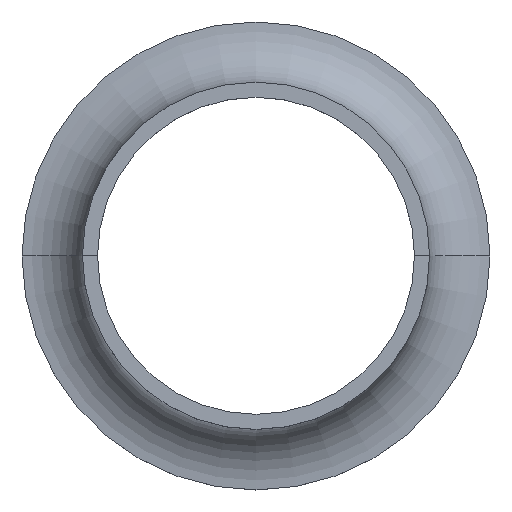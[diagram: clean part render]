
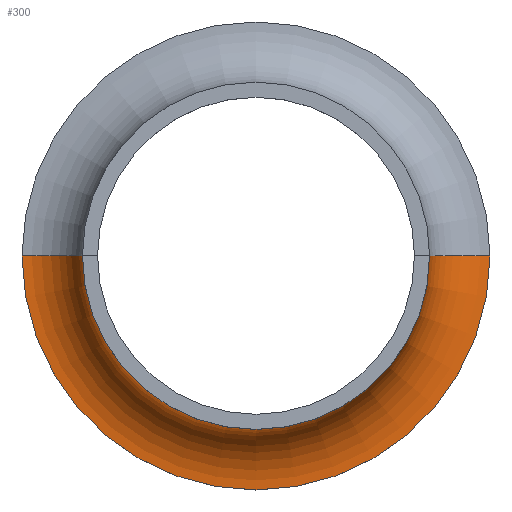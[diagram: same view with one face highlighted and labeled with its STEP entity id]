
A CAD part, top view. The second image highlights one B-rep face of the part: STEP entity #300.
In plain terms, the highlighted toroidal (fillet/blend) face has major radius 31 mm and minor radius 8 mm.
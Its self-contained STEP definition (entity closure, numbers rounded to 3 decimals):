
#7=CARTESIAN_POINT('',(31.0,0.0,-22.0));
#8=CARTESIAN_POINT('',(-31.0,0.0,-22.0));
#9=CARTESIAN_POINT('',(23.0,0.0,-14.0));
#10=CARTESIAN_POINT('',(-23.0,0.0,-14.0));
#55=CARTESIAN_POINT('',(0.0,0.0,-22.0));
#56=DIRECTION('',(0.0,0.0,1.0));
#57=DIRECTION('',(1.0,0.0,0.0));
#58=AXIS2_PLACEMENT_3D('',#55,#56,#57);
#59=CIRCLE('',#58,31.0);
#60=TRIMMED_CURVE('',#59,(#8),(#7),.T.,.CARTESIAN.);
#67=CARTESIAN_POINT('',(0.0,0.0,-14.0));
#68=DIRECTION('',(0.0,0.0,1.0));
#69=DIRECTION('',(1.0,0.0,0.0));
#70=AXIS2_PLACEMENT_3D('',#67,#68,#69);
#71=CIRCLE('',#70,23.0);
#72=TRIMMED_CURVE('',#71,(#10),(#9),.T.,.CARTESIAN.);
#105=CARTESIAN_POINT('',(31.0,0.0,-22.0));
#106=CARTESIAN_POINT('',(23.0,0.0,-22.0));
#107=CARTESIAN_POINT('',(23.0,0.0,-14.0));
#108=(BOUNDED_CURVE()B_SPLINE_CURVE(2,(#105,#106,#107),.UNSPECIFIED.,.F.,.F.)B_SPLINE_CURVE_WITH_KNOTS((3,3),(0.,1.),.PIECEWISE_BEZIER_KNOTS.)CURVE()GEOMETRIC_REPRESENTATION_ITEM()RATIONAL_B_SPLINE_CURVE((1.0,0.707,1.0))REPRESENTATION_ITEM(''));
#109=CARTESIAN_POINT('',(-31.0,0.0,-22.0));
#110=CARTESIAN_POINT('',(-23.0,0.0,-22.0));
#111=CARTESIAN_POINT('',(-23.0,0.0,-14.0));
#112=(BOUNDED_CURVE()B_SPLINE_CURVE(2,(#109,#110,#111),.UNSPECIFIED.,.F.,.F.)B_SPLINE_CURVE_WITH_KNOTS((3,3),(0.,1.),.PIECEWISE_BEZIER_KNOTS.)CURVE()GEOMETRIC_REPRESENTATION_ITEM()RATIONAL_B_SPLINE_CURVE((1.0,0.707,1.0))REPRESENTATION_ITEM(''));
#160=CARTESIAN_POINT('',(0.0,0.0,-14.0));
#161=DIRECTION('',(0.0,0.0,1.0));
#162=DIRECTION('',(0.0,-1.0,0.0));
#163=AXIS2_PLACEMENT_3D('',#160,#161,#162);
#164=TOROIDAL_SURFACE('',#163,31.0,8.0);
#191=VERTEX_POINT('',#7);
#192=VERTEX_POINT('',#8);
#193=VERTEX_POINT('',#9);
#194=VERTEX_POINT('',#10);
#204=EDGE_CURVE('',#192,#191,#60,.T.);
#206=EDGE_CURVE('',#194,#193,#72,.T.);
#215=EDGE_CURVE('',#191,#193,#108,.T.);
#216=EDGE_CURVE('',#192,#194,#112,.T.);
#249=ORIENTED_EDGE('',*,*,#204,.T.);
#250=ORIENTED_EDGE('',*,*,#215,.T.);
#251=ORIENTED_EDGE('',*,*,#206,.F.);
#252=ORIENTED_EDGE('',*,*,#216,.F.);
#276=EDGE_LOOP('',(#249,#250,#251,#252));
#288=FACE_OUTER_BOUND('',#276,.T.);
#300=ADVANCED_FACE('',(#288),#164,.F.);
